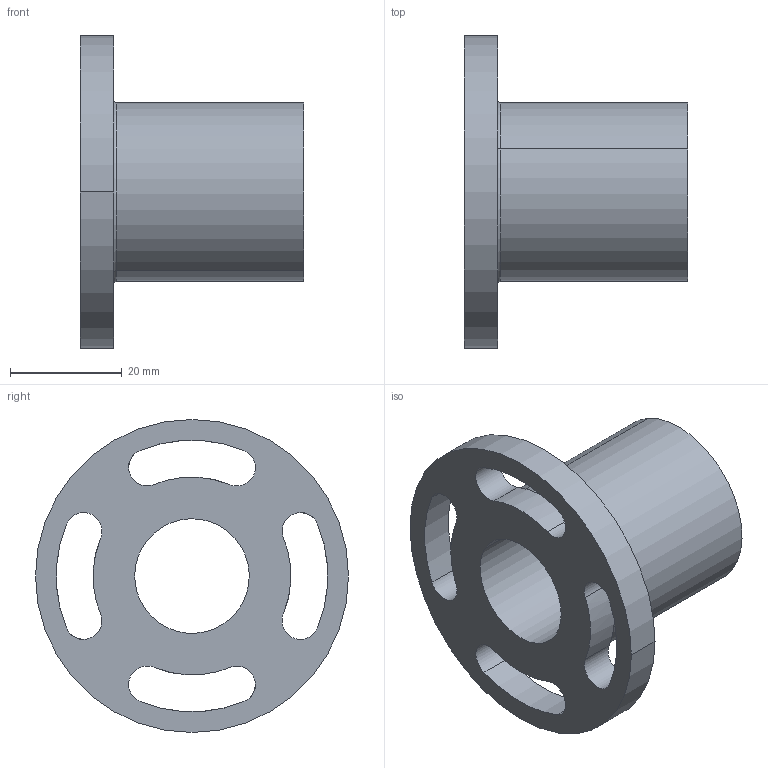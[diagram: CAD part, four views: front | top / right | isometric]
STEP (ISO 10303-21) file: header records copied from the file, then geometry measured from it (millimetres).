
FILE_DESCRIPTION(('CATIA V5 STEP Exchange'),'2;1');
FILE_NAME('C:\Users\aa\Documents\이댈\TM\CTM\CTM20.stp','2020-03-26T08:56:52+00:00',('none'),('none'),'CATIA Version 5 Release 20 SP 7 (IN-10)','CATIA V5 STEP AP203','none');
FILE_SCHEMA(('CONFIG_CONTROL_DESIGN'));
Length unit declared in the file: millimetre
Products named in the file (1): CTM20
Bounding box: 40 x 56 x 56 mm (x, y, z)
Volume: 25491.7 mm3; surface area: 11438.9 mm2
Topology: 1 solids, 1 shells, 27 faces, 70 edges, 46 vertices
Faces by surface type: cylinder 22, plane 3, torus 2
Entity records: 1134 total; most frequent: CARTESIAN_POINT 452, ORIENTED_EDGE 140, DIRECTION 102, EDGE_CURVE 70, AXIS2_PLACEMENT_3D 54, VERTEX_POINT 46, EDGE_LOOP 38, ADVANCED_FACE 27
